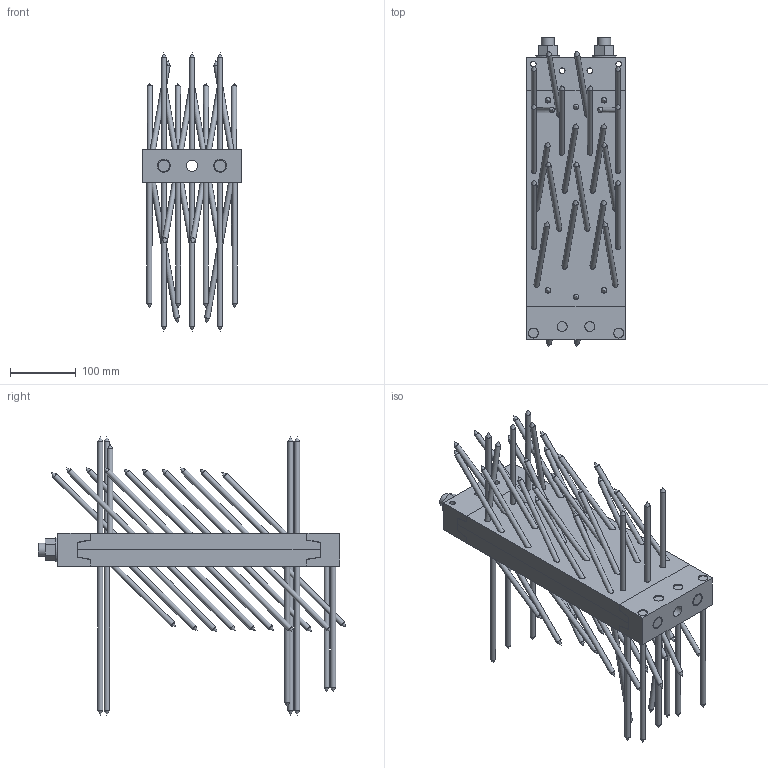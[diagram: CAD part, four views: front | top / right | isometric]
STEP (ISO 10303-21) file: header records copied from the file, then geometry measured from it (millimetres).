
FILE_DESCRIPTION(/* description */ ('Unknown'),/* implementation_level */ '2;1');
FILE_NAME(/* name */ 'MEGANT_430x150x50_Verdeckt',/* time_stamp */ '2020-05-05T17:19:08+02:00',/* author */ ('Unknown'),/* organization */ ('Unknown'),/* preprocessor_version */ 'ST-DEVELOPER v16.7',/* originating_system */ 'DEX',/* authorisation */ $);
FILE_SCHEMA (('AUTOMOTIVE_DESIGN {1 0 10303 214 3 1 1}'));
Length unit declared in the file: millimetre
Products named in the file (13): MEGANT_430x150x50_Verdeckt; Verbinderplatte_370x150x25_NT; SK_Schraube_8x240; Verbinderplatte_370x150x25; SK_Schraube_8x160; Verbinderplatte_370x150x25_HT ; Spannbacke_oben_150x50x50; Spannbacke_unten_150x50x50_NT; Spannbacke_unten_150x50x50; Gewindestange_M20_L460; Mutter_M20; Beilagscheibe_M20
Assembly tree (72 placements, depth 3):
  MEGANT_430x150x50_Verdeckt
    Verbinderplatte_370x150x25_NT
      SK_Schraube_8x240  x8
      Verbinderplatte_370x150x25
      SK_Schraube_8x160  x20
    Verbinderplatte_370x150x25_HT 
      SK_Schraube_8x160  x28
      Verbinderplatte_370x150x25
    Spannbacke_oben_150x50x50
    Spannbacke_unten_150x50x50_NT
      Spannbacke_unten_150x50x50
      SK_Schraube_8x240  x4
    Gewindestange_M20_L460  x2
      Gewindestange_M20_L460
      Mutter_M20
      Beilagscheibe_M20
Bounding box: 150 x 469.49 x 424 mm (x, y, z)
Volume: 3296985 mm3; surface area: 798484.8 mm2
Topology: 70 solids, 70 shells, 714 faces, 1668 edges, 1046 vertices
Faces by surface type: cylinder 270, plane 260, cone 184
Full cylindrical faces by diameter (mm): 8 x60, 8.5 x64, 15 x124, 17.294 x5, 20 x2, 21 x5, 37 x2
Entity records: 7559 total; most frequent: DIRECTION 1270, CARTESIAN_POINT 1141, ORIENTED_EDGE 920, AXIS2_PLACEMENT_3D 495, FACE_BOUND 462, EDGE_CURVE 460, EDGE_LOOP 460, VERTEX_POINT 366
